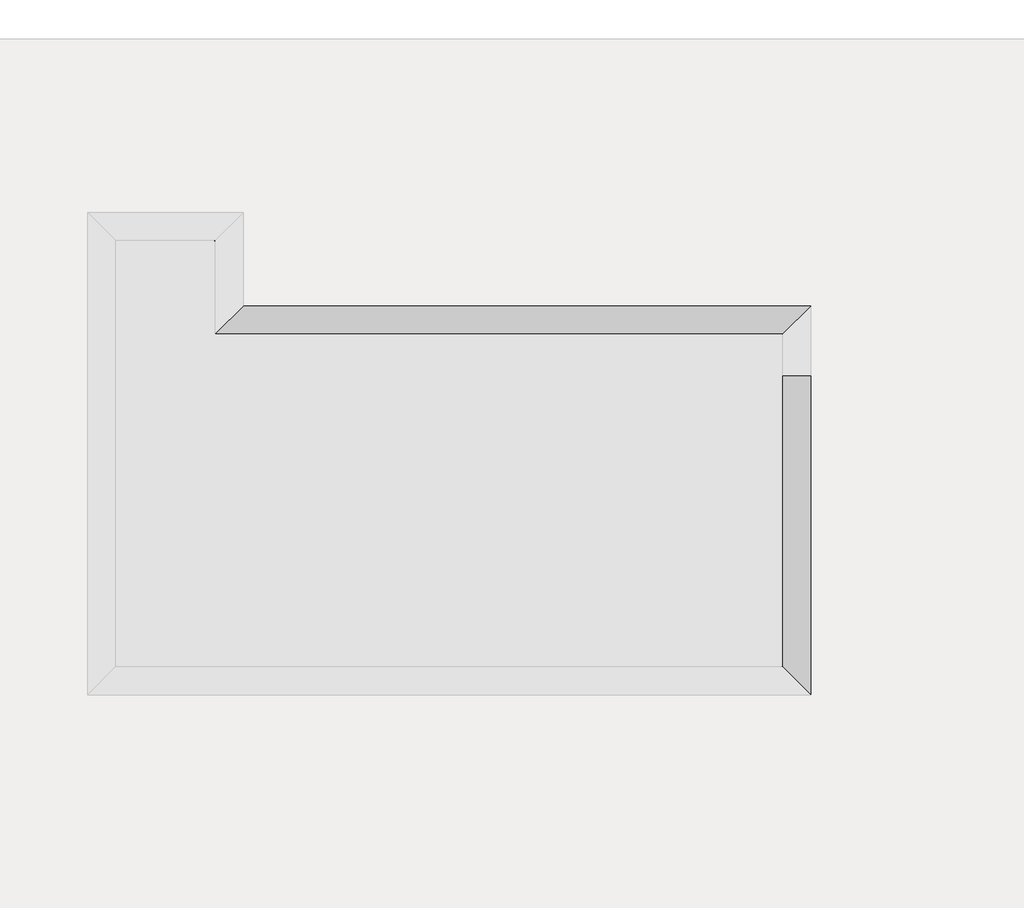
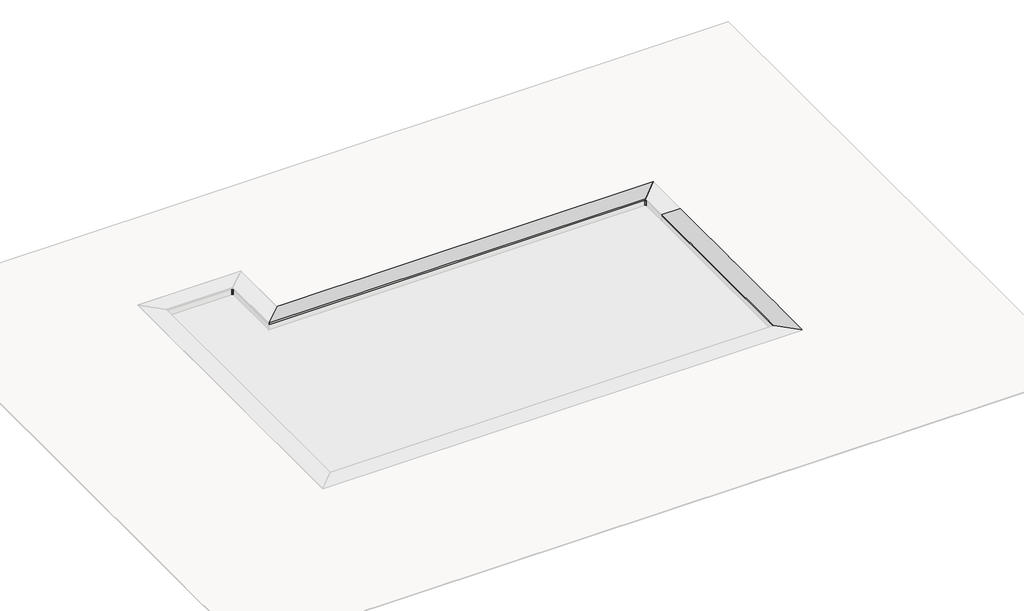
# One storey, part 7 of 8: 14 proxies.
"""IFC4 building model written with IfcOpenShell, lengths in millimetres."""

from ifc_helpers import new_model, si_unit, frame, origin, place, context, project, spatial, polyline, circle_curve, faceted_brep, transform, mapped, element, save
from ifc_brep_helpers import plane_surface, cylinder_surface, revolved_surface, advanced_brep
from components import generic_models_b0f7cce5, generic_models_b073b66c, generic_models_a90d31dc, generic_models_c740a98f, generic_models_2f643e7a, generic_models_adeb31d8, generic_models_0ded9d30

model = new_model("IFC4")

# Units and contexts
model_context = context("Model", 3, world=origin())
ifc_project = project(units=[si_unit("LENGTHUNIT", "METRE", prefix="MILLI")], contexts=[model_context])

# Site, building, storey
site = spatial("IfcSite", under=ifc_project)
building = spatial("IfcBuilding", under=site)
storey = spatial("IfcBuildingStorey", under=building, Name="EXAGRES_Serie YOHO_Piscinas_ejemplo", Elevation=0.0)

# Proxies
placement = place(None, origin())
element("IfcBuildingElementProxy", 1, Name="Wall Sweeps", at=placement, inside=storey, context=model_context, shape_type="Brep", body=[
    faceted_brep([(13093.1504813, -22393.1586753, 0.0), (13080.1504813, -22406.1586753, 0.0), (13080.1504813, -22406.1586753, 33.0), (13410.1504813, -22076.1586753, 33.0), (13410.1504813, -22076.1586753, 21.0), (13404.1504813, -22082.1586753, 21.0), (13404.1504813, -22082.1586753, 22.0), (13400.1504813, -22086.1586753, 22.0), (13400.1504813, -22086.1586753, 21.0), (13394.1504813, -22092.1586753, 21.0), (13394.1504813, -22092.1586753, 22.0), (13390.1504813, -22096.1586753, 22.0), (13390.1504813, -22096.1586753, 21.0), (13384.1504813, -22102.1586753, 21.0), (13384.1504813, -22102.1586753, 22.0), (13380.1504813, -22106.1586753, 22.0), (13380.1504813, -22106.1586753, 21.0), (13374.1504813, -22112.1586753, 21.0), (13374.1504813, -22112.1586753, 22.0), (13370.1504813, -22116.1586753, 22.0), (13370.1504813, -22116.1586753, 21.0), (13364.1504813, -22122.1586753, 21.0), (13364.1504813, -22122.1586753, 22.0), (13360.1504813, -22126.1586753, 22.0), (13360.1504813, -22126.1586753, 21.0), (13354.1504813, -22132.1586753, 21.0), (13354.1504813, -22132.1586753, 22.0), (13350.1504813, -22136.1586753, 22.0), (13350.1504813, -22136.1586753, 21.0), (13344.1504813, -22142.1586753, 21.0), (13344.1504813, -22142.1586753, 22.0), (13340.1504813, -22146.1586753, 22.0), (13340.1504813, -22146.1586753, 21.0), (13334.1504813, -22152.1586753, 21.0), (13334.1504813, -22152.1586753, 22.0), (13330.1504813, -22156.1586753, 22.0), (13330.1504813, -22156.1586753, 21.0), (13324.1504813, -22162.1586753, 21.0), (13324.1504813, -22162.1586753, 22.0), (13320.1504813, -22166.1586753, 22.0), (13320.1504813, -22166.1586753, 21.0), (13314.1504813, -22172.1586753, 21.0), (13314.1504813, -22172.1586753, 22.0), (13310.1504813, -22176.1586753, 22.0), (13310.1504813, -22176.1586753, 21.0), (13304.1504813, -22182.1586753, 21.0), (13304.1504813, -22182.1586753, 22.0), (13300.1504813, -22186.1586753, 22.0), (13300.1504813, -22186.1586753, 21.0), (13294.1504813, -22192.1586753, 21.0), (13294.1504813, -22192.1586753, 22.0), (13290.1504813, -22196.1586753, 22.0), (13290.1504813, -22196.1586753, 21.0), (13284.1504813, -22202.1586753, 21.0), (13284.1504813, -22202.1586753, 22.0), (13280.1504813, -22206.1586753, 22.0), (13280.1504813, -22206.1586753, 21.0), (13274.1504813, -22212.1586753, 21.0), (13274.1504813, -22212.1586753, 22.0), (13270.1504813, -22216.1586753, 22.0), (13270.1504813, -22216.1586753, 21.0), (13264.1504813, -22222.1586753, 21.0), (13264.1504813, -22222.1586753, 22.0), (13260.1504813, -22226.1586753, 22.0), (13260.1504813, -22226.1586753, 21.0), (13254.1504813, -22232.1586753, 21.0), (13254.1504813, -22232.1586753, 22.0), (13250.1504813, -22236.1586753, 22.0), (13250.1504813, -22236.1586753, 21.0), (13244.1504813, -22242.1586753, 21.0), (13244.1504813, -22242.1586753, 22.0), (13240.1504813, -22246.1586753, 22.0), (13240.1504813, -22246.1586753, 21.0), (13234.1504813, -22252.1586753, 21.0), (13234.1504813, -22252.1586753, 22.0), (13230.1504813, -22256.1586753, 22.0), (13230.1504813, -22256.1586753, 21.0), (13224.1504813, -22262.1586753, 21.0), (13224.1504813, -22262.1586753, 22.0), (13220.1504813, -22266.1586753, 22.0), (13220.1504813, -22266.1586753, 21.0), (13214.1504813, -22272.1586753, 21.0), (13214.1504813, -22272.1586753, 22.0), (13210.1504813, -22276.1586753, 22.0), (13210.1504813, -22276.1586753, 21.0), (13204.1504813, -22282.1586753, 21.0), (13204.1504813, -22282.1586753, 22.0), (13200.1504813, -22286.1586753, 22.0), (13200.1504813, -22286.1586753, 21.0), (13194.1504813, -22292.1586753, 21.0), (13194.1504813, -22292.1586753, 22.0), (13190.1504813, -22296.1586753, 22.0), (13190.1504813, -22296.1586753, 21.0), (13184.1504813, -22302.1586753, 21.0), (13184.1504813, -22302.1586753, 22.0), (13180.1504813, -22306.1586753, 22.0), (13180.1504813, -22306.1586753, 21.0), (13174.1504813, -22312.1586753, 21.0), (13174.1504813, -22312.1586753, 22.0), (13170.1504813, -22316.1586753, 22.0), (13170.1504813, -22316.1586753, 21.0), (13164.1504813, -22322.1586753, 21.0), (13164.1504813, -22322.1586753, 22.0), (13160.1504813, -22326.1586753, 22.0), (13160.1504813, -22326.1586753, 21.0), (13154.1504813, -22332.1586753, 21.0), (13154.1504813, -22332.1586753, 22.0), (13150.1504813, -22336.1586753, 22.0), (13150.1504813, -22336.1586753, 21.0), (13144.1504813, -22342.1586753, 21.0), (13144.1504813, -22342.1586753, 22.0), (13140.1504813, -22346.1586753, 22.0), (13140.1504813, -22346.1586753, 21.0), (13134.1504813, -22352.1586753, 21.0), (13134.1504813, -22352.1586753, 22.0), (13130.1504813, -22356.1586753, 22.0), (13130.1504813, -22356.1586753, 21.0), (13124.1504813, -22362.1586753, 21.0), (13124.1504813, -22362.1586753, 22.0), (13120.1504813, -22366.1586753, 22.0), (13120.1504813, -22366.1586753, 21.0), (13114.1504813, -22372.1586753, 21.0), (13114.1504813, -22372.1586753, 22.0), (13110.1504813, -22376.1586753, 22.0), (13110.1504813, -22376.1586753, 21.0), (13104.1504813, -22382.1586753, 21.0), (13104.1504813, -22382.1586753, 22.0), (13100.1504813, -22386.1586753, 22.0), (13100.1504813, -22386.1586753, 21.0), (13093.1504813, -22393.1586753, 21.0), (13093.1504813, -22393.1586753, 14.0), (13092.1504813, -22394.1586753, 14.0), (13092.1504813, -22394.1586753, 8.0), (13093.1504813, -22393.1586753, 8.0), (19893.1504813, -22393.1586753, 0.0), (19893.1504813, -22393.1586753, 8.0), (19892.1504813, -22394.1586753, 8.0), (19892.1504813, -22394.1586753, 14.0), (19893.1504813, -22393.1586753, 14.0), (19893.1504813, -22393.1586753, 21.0), (19900.1504813, -22386.1586753, 21.0), (19900.1504813, -22386.1586753, 22.0), (19904.1504813, -22382.1586753, 22.0), (19904.1504813, -22382.1586753, 21.0), (19910.1504813, -22376.1586753, 21.0), (19910.1504813, -22376.1586753, 22.0), (19914.1504813, -22372.1586753, 22.0), (19914.1504813, -22372.1586753, 21.0), (19920.1504813, -22366.1586753, 21.0), (19920.1504813, -22366.1586753, 22.0), (19924.1504813, -22362.1586753, 22.0), (19924.1504813, -22362.1586753, 21.0), (19930.1504813, -22356.1586753, 21.0), (19930.1504813, -22356.1586753, 22.0), (19934.1504813, -22352.1586753, 22.0), (19934.1504813, -22352.1586753, 21.0), (19940.1504813, -22346.1586753, 21.0), (19940.1504813, -22346.1586753, 22.0), (19944.1504813, -22342.1586753, 22.0), (19944.1504813, -22342.1586753, 21.0), (19950.1504813, -22336.1586753, 21.0), (19950.1504813, -22336.1586753, 22.0), (19954.1504813, -22332.1586753, 22.0), (19954.1504813, -22332.1586753, 21.0), (19960.1504813, -22326.1586753, 21.0), (19960.1504813, -22326.1586753, 22.0), (19964.1504813, -22322.1586753, 22.0), (19964.1504813, -22322.1586753, 21.0), (19970.1504813, -22316.1586753, 21.0), (19970.1504813, -22316.1586753, 22.0), (19974.1504813, -22312.1586753, 22.0), (19974.1504813, -22312.1586753, 21.0), (19980.1504813, -22306.1586753, 21.0), (19980.1504813, -22306.1586753, 22.0), (19984.1504813, -22302.1586753, 22.0), (19984.1504813, -22302.1586753, 21.0), (19990.1504813, -22296.1586753, 21.0), (19990.1504813, -22296.1586753, 22.0), (19994.1504813, -22292.1586753, 22.0), (19994.1504813, -22292.1586753, 21.0), (20000.1504813, -22286.1586753, 21.0), (20000.1504813, -22286.1586753, 22.0), (20004.1504813, -22282.1586753, 22.0), (20004.1504813, -22282.1586753, 21.0), (20010.1504813, -22276.1586753, 21.0), (20010.1504813, -22276.1586753, 22.0), (20014.1504813, -22272.1586753, 22.0), (20014.1504813, -22272.1586753, 21.0), (20020.1504813, -22266.1586753, 21.0), (20020.1504813, -22266.1586753, 22.0), (20024.1504813, -22262.1586753, 22.0), (20024.1504813, -22262.1586753, 21.0), (20030.1504813, -22256.1586753, 21.0), (20030.1504813, -22256.1586753, 22.0), (20034.1504813, -22252.1586753, 22.0), (20034.1504813, -22252.1586753, 21.0), (20040.1504813, -22246.1586753, 21.0), (20040.1504813, -22246.1586753, 22.0), (20044.1504813, -22242.1586753, 22.0), (20044.1504813, -22242.1586753, 21.0), (20050.1504813, -22236.1586753, 21.0), (20050.1504813, -22236.1586753, 22.0), (20054.1504813, -22232.1586753, 22.0), (20054.1504813, -22232.1586753, 21.0), (20060.1504813, -22226.1586753, 21.0), (20060.1504813, -22226.1586753, 22.0), (20064.1504813, -22222.1586753, 22.0), (20064.1504813, -22222.1586753, 21.0), (20070.1504813, -22216.1586753, 21.0), (20070.1504813, -22216.1586753, 22.0), (20074.1504813, -22212.1586753, 22.0), (20074.1504813, -22212.1586753, 21.0), (20080.1504813, -22206.1586753, 21.0), (20080.1504813, -22206.1586753, 22.0), (20084.1504813, -22202.1586753, 22.0), (20084.1504813, -22202.1586753, 21.0), (20090.1504813, -22196.1586753, 21.0), (20090.1504813, -22196.1586753, 22.0), (20094.1504813, -22192.1586753, 22.0), (20094.1504813, -22192.1586753, 21.0), (20100.1504813, -22186.1586753, 21.0), (20100.1504813, -22186.1586753, 22.0), (20104.1504813, -22182.1586753, 22.0), (20104.1504813, -22182.1586753, 21.0), (20110.1504813, -22176.1586753, 21.0), (20110.1504813, -22176.1586753, 22.0), (20114.1504813, -22172.1586753, 22.0), (20114.1504813, -22172.1586753, 21.0), (20120.1504813, -22166.1586753, 21.0), (20120.1504813, -22166.1586753, 22.0), (20124.1504813, -22162.1586753, 22.0), (20124.1504813, -22162.1586753, 21.0), (20130.1504813, -22156.1586753, 21.0), (20130.1504813, -22156.1586753, 22.0), (20134.1504813, -22152.1586753, 22.0), (20134.1504813, -22152.1586753, 21.0), (20140.1504813, -22146.1586753, 21.0), (20140.1504813, -22146.1586753, 22.0), (20144.1504813, -22142.1586753, 22.0), (20144.1504813, -22142.1586753, 21.0), (20150.1504813, -22136.1586753, 21.0), (20150.1504813, -22136.1586753, 22.0), (20154.1504813, -22132.1586753, 22.0), (20154.1504813, -22132.1586753, 21.0), (20160.1504813, -22126.1586753, 21.0), (20160.1504813, -22126.1586753, 22.0), (20164.1504813, -22122.1586753, 22.0), (20164.1504813, -22122.1586753, 21.0), (20170.1504813, -22116.1586753, 21.0), (20170.1504813, -22116.1586753, 22.0), (20174.1504813, -22112.1586753, 22.0), (20174.1504813, -22112.1586753, 21.0), (20180.1504813, -22106.1586753, 21.0), (20180.1504813, -22106.1586753, 22.0), (20184.1504813, -22102.1586753, 22.0), (20184.1504813, -22102.1586753, 21.0), (20190.1504813, -22096.1586753, 21.0), (20190.1504813, -22096.1586753, 22.0), (20194.1504813, -22092.1586753, 22.0), (20194.1504813, -22092.1586753, 21.0), (20200.1504813, -22086.1586753, 21.0), (20200.1504813, -22086.1586753, 22.0), (20204.1504813, -22082.1586753, 22.0), (20204.1504813, -22082.1586753, 21.0), (20210.1504813, -22076.1586753, 21.0), (20210.1504813, -22076.1586753, 33.0), (19880.1504813, -22406.1586753, 33.0), (19880.1504813, -22406.1586753, 0.0)], [[[0, 1, 2, 3, 4, 5, 6, 7, 8, 9, 10, 11, 12, 13, 14, 15, 16, 17, 18, 19, 20, 21, 22, 23, 24, 25, 26, 27, 28, 29, 30, 31, 32, 33, 34, 35, 36, 37, 38, 39, 40, 41, 42, 43, 44, 45, 46, 47, 48, 49, 50, 51, 52, 53, 54, 55, 56, 57, 58, 59, 60, 61, 62, 63, 64, 65, 66, 67, 68, 69, 70, 71, 72, 73, 74, 75, 76, 77, 78, 79, 80, 81, 82, 83, 84, 85, 86, 87, 88, 89, 90, 91, 92, 93, 94, 95, 96, 97, 98, 99, 100, 101, 102, 103, 104, 105, 106, 107, 108, 109, 110, 111, 112, 113, 114, 115, 116, 117, 118, 119, 120, 121, 122, 123, 124, 125, 126, 127, 128, 129, 130, 131, 132, 133]], [[134, 135, 136, 137, 138, 139, 140, 141, 142, 143, 144, 145, 146, 147, 148, 149, 150, 151, 152, 153, 154, 155, 156, 157, 158, 159, 160, 161, 162, 163, 164, 165, 166, 167, 168, 169, 170, 171, 172, 173, 174, 175, 176, 177, 178, 179, 180, 181, 182, 183, 184, 185, 186, 187, 188, 189, 190, 191, 192, 193, 194, 195, 196, 197, 198, 199, 200, 201, 202, 203, 204, 205, 206, 207, 208, 209, 210, 211, 212, 213, 214, 215, 216, 217, 218, 219, 220, 221, 222, 223, 224, 225, 226, 227, 228, 229, 230, 231, 232, 233, 234, 235, 236, 237, 238, 239, 240, 241, 242, 243, 244, 245, 246, 247, 248, 249, 250, 251, 252, 253, 254, 255, 256, 257, 258, 259, 260, 261, 262, 263, 264, 265, 266, 267]], [[1, 0, 134, 267]], [[2, 1, 267, 266]], [[3, 2, 266, 265]], [[4, 3, 265, 264]], [[5, 4, 264, 263]], [[6, 5, 263, 262]], [[7, 6, 262, 261]], [[8, 7, 261, 260]], [[9, 8, 260, 259]], [[10, 9, 259, 258]], [[11, 10, 258, 257]], [[12, 11, 257, 256]], [[13, 12, 256, 255]], [[14, 13, 255, 254]], [[15, 14, 254, 253]], [[16, 15, 253, 252]], [[17, 16, 252, 251]], [[18, 17, 251, 250]], [[19, 18, 250, 249]], [[20, 19, 249, 248]], [[21, 20, 248, 247]], [[22, 21, 247, 246]], [[23, 22, 246, 245]], [[24, 23, 245, 244]], [[25, 24, 244, 243]], [[26, 25, 243, 242]], [[27, 26, 242, 241]], [[28, 27, 241, 240]], [[29, 28, 240, 239]], [[30, 29, 239, 238]], [[31, 30, 238, 237]], [[32, 31, 237, 236]], [[33, 32, 236, 235]], [[34, 33, 235, 234]], [[35, 34, 234, 233]], [[36, 35, 233, 232]], [[37, 36, 232, 231]], [[38, 37, 231, 230]], [[39, 38, 230, 229]], [[40, 39, 229, 228]], [[41, 40, 228, 227]], [[42, 41, 227, 226]], [[43, 42, 226, 225]], [[44, 43, 225, 224]], [[45, 44, 224, 223]], [[46, 45, 223, 222]], [[47, 46, 222, 221]], [[48, 47, 221, 220]], [[49, 48, 220, 219]], [[50, 49, 219, 218]], [[51, 50, 218, 217]], [[52, 51, 217, 216]], [[53, 52, 216, 215]], [[54, 53, 215, 214]], [[55, 54, 214, 213]], [[56, 55, 213, 212]], [[57, 56, 212, 211]], [[58, 57, 211, 210]], [[59, 58, 210, 209]], [[60, 59, 209, 208]], [[61, 60, 208, 207]], [[62, 61, 207, 206]], [[63, 62, 206, 205]], [[64, 63, 205, 204]], [[65, 64, 204, 203]], [[66, 65, 203, 202]], [[67, 66, 202, 201]], [[68, 67, 201, 200]], [[69, 68, 200, 199]], [[70, 69, 199, 198]], [[71, 70, 198, 197]], [[72, 71, 197, 196]], [[73, 72, 196, 195]], [[74, 73, 195, 194]], [[75, 74, 194, 193]], [[76, 75, 193, 192]], [[77, 76, 192, 191]], [[78, 77, 191, 190]], [[79, 78, 190, 189]], [[80, 79, 189, 188]], [[81, 80, 188, 187]], [[82, 81, 187, 186]], [[83, 82, 186, 185]], [[84, 83, 185, 184]], [[85, 84, 184, 183]], [[86, 85, 183, 182]], [[87, 86, 182, 181]], [[88, 87, 181, 180]], [[89, 88, 180, 179]], [[90, 89, 179, 178]], [[91, 90, 178, 177]], [[92, 91, 177, 176]], [[93, 92, 176, 175]], [[94, 93, 175, 174]], [[95, 94, 174, 173]], [[96, 95, 173, 172]], [[97, 96, 172, 171]], [[98, 97, 171, 170]], [[99, 98, 170, 169]], [[100, 99, 169, 168]], [[101, 100, 168, 167]], [[102, 101, 167, 166]], [[103, 102, 166, 165]], [[104, 103, 165, 164]], [[105, 104, 164, 163]], [[106, 105, 163, 162]], [[107, 106, 162, 161]], [[108, 107, 161, 160]], [[109, 108, 160, 159]], [[110, 109, 159, 158]], [[111, 110, 158, 157]], [[112, 111, 157, 156]], [[113, 112, 156, 155]], [[114, 113, 155, 154]], [[115, 114, 154, 153]], [[116, 115, 153, 152]], [[117, 116, 152, 151]], [[118, 117, 151, 150]], [[119, 118, 150, 149]], [[120, 119, 149, 148]], [[121, 120, 148, 147]], [[122, 121, 147, 146]], [[123, 122, 146, 145]], [[124, 123, 145, 144]], [[125, 124, 144, 143]], [[126, 125, 143, 142]], [[127, 126, 142, 141]], [[128, 127, 141, 140]], [[129, 128, 140, 139]], [[130, 129, 139, 138]], [[131, 130, 138, 137]], [[132, 131, 137, 136]], [[133, 132, 136, 135]], [[0, 133, 135, 134]]]),
])
element("IfcBuildingElementProxy", 2, Name="Wall Sweeps", at=placement, inside=storey, context=model_context, shape_type="Brep", body=[
    faceted_brep([(13400.1504813, -22086.1586753, -181.26), (13305.1504813, -22181.1586753, -181.26), (13095.1504813, -22391.1586753, -181.26), (13095.1504813, -22391.1586753, 0.0), (13095.1504813, -22391.1586753, 18.74), (13400.1504813, -22086.1586753, 18.74), (20200.1504813, -22086.1586753, -181.26), (20200.1504813, -22086.1586753, 18.74), (19895.1504813, -22391.1586753, 18.74), (19895.1504813, -22391.1586753, 0.0), (19895.1504813, -22391.1586753, -181.26), (20105.1504813, -22181.1586753, -181.26)], [[[0, 1, 2, 3, 4, 5]], [[6, 7, 8, 9, 10, 11]], [[4, 3, 2, 10, 9, 8]], [[2, 1, 0, 6, 11, 10]], [[5, 4, 8, 7]], [[0, 5, 7, 6]]]),
])
element("IfcBuildingElementProxy", 3, Name="Wall Sweeps", at=placement, inside=storey, context=model_context, shape_type="AdvancedBrep", body=[
    advanced_brep(
    [(13095.1504813, -22391.1586753, -181.26), (13305.1504813, -22181.1586753, -181.26), (13400.1504813, -22086.1586753, -181.26), (13400.1504813, -22086.1586753, 18.74), (13095.1504813, -22391.1586753, 18.74), (13095.1504813, -22391.1586753, 0.0), (13400.1504813, -20966.1586753, -181.26), (13305.1504813, -21061.1586753, -181.26), (13095.1504813, -21271.1586753, -181.26), (13095.1504813, -21271.1586753, -109.0), (13105.1504813, -21261.1586753, -109.0), (13105.1504813, -21261.1586753, -100.0), (13095.1504813, -21271.1586753, -100.0), (13095.1504813, -21271.1586753, 0.0), (13095.1504813, -21271.1586753, 18.74), (13400.1504813, -20966.1586753, 18.74), (13095.1504813, -21502.2586753, -100.0), (13095.1504813, -21526.1586753, -123.9), (13095.1504813, -21519.7586753, -123.9), (13095.1504813, -21502.2586753, -106.4), (13095.1504813, -21502.2586753, -109.0), (13105.1504813, -21502.2586753, -109.0), (13105.1504813, -21502.2586753, -100.0), (13105.1504813, -21502.2586753, -106.4), (13105.1504813, -21519.7586753, -123.9), (13105.1504813, -21526.1586753, -123.9)],
    [
        (0, 1),
        (1, 2),
        (2, 3),
        (3, 4),
        (4, 5),
        (5, 0),
        (6, 7),
        (7, 8),
        (8, 9),
        (9, 10),
        (10, 11),
        (11, 12),
        (12, 13),
        (13, 14),
        (14, 15),
        (15, 6),
        (0, 8),
        (6, 2),
        (4, 14),
        (12, 16),
        (16, 17, circle_curve(frame((13095.1504813, -21502.2586753, -123.9), z_axis=(1.0, 0.0, 0.0), x_axis=(0.0, 1.0, 0.0)), 23.9)),
        (17, 18),
        (18, 19, circle_curve(frame((13095.1504813, -21502.2586753, -123.9), z_axis=(-1.0, 0.0, 0.0), x_axis=(0.0, 1.0, 0.0)), 17.5)),
        (19, 20),
        (20, 9),
        (15, 3),
        (20, 21),
        (21, 10),
        (11, 22),
        (22, 16),
        (21, 23),
        (23, 24, circle_curve(frame((13105.1504813, -21502.2586753, -123.9), z_axis=(1.0, 0.0, 0.0), x_axis=(0.0, 1.0, 0.0)), 17.5)),
        (24, 25),
        (25, 22, circle_curve(frame((13105.1504813, -21502.2586753, -123.9), z_axis=(-1.0, 0.0, 0.0), x_axis=(0.0, 1.0, 0.0)), 23.9)),
        (19, 23),
        (25, 17),
        (18, 24),
    ],
    [
        plane_surface(frame((13080.1504813, -22406.1586753, 304.8), z_axis=(0.7071067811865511, -0.707106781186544, 0.0), x_axis=(0.707106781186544, 0.7071067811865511, 0.0))),
        plane_surface(frame((13080.1504813, -21286.1586753, -304.8), z_axis=(-0.7071067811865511, 0.707106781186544, 0.0), x_axis=(-0.707106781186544, -0.7071067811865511, 0.0))),
        plane_surface(frame((13095.1504813, -22391.1586753, -181.26), z_axis=(0.0, 0.0, -1.0), x_axis=(0.0, 1.0, 0.0))),
        plane_surface(frame((13095.1504813, -22391.1586753, 18.74), z_axis=(-1.0, 0.0, 0.0), x_axis=(0.0, 1.0, 0.0))),
        plane_surface(frame((13400.1504813, -22086.1586753, -181.26), z_axis=(1.0, 0.0, 0.0), x_axis=(0.0, 1.0, 0.0))),
        plane_surface(frame((13400.1504813, -22086.1586753, 18.74), z_axis=(0.0, 0.0, 1.0), x_axis=(0.0, 1.0, 0.0))),
        plane_surface(frame((13105.1504813, -2799.4052265, -109.0), z_axis=(0.0, 0.0, 1.0), x_axis=(0.0, -1.0, 0.0))),
        plane_surface(frame((13105.1504813, -2799.4052265, -100.0), z_axis=(0.0, 0.0, -1.0), x_axis=(0.0, 1.0, 0.0))),
        plane_surface(frame((13105.1504813, -21226.1586753, -109.0), z_axis=(-1.0, 0.0, 0.0), x_axis=(0.0, 0.0, 1.0))),
        plane_surface(frame((11855.1504813, -21502.2586753, -100.0), z_axis=(0.0, 1.0, 0.0), x_axis=(1.0, 0.0, 0.0))),
        revolved_surface(polyline([(13095.1504813, -21478.358675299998, -123.9), (13105.1504813, -21478.358675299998, -123.9)]), (11855.1504813, -21502.2586753, -123.9), (-1.0, 0.0, 0.0)),
        cylinder_surface(frame((11855.1504813, -21502.2586753, -123.9), z_axis=(1.0, 0.0, 0.0), x_axis=(0.0, 1.0, 0.0)), 17.5),
        plane_surface(frame((11855.1504813, -21519.7586753, -123.9), z_axis=(0.0, 0.0, 1.0), x_axis=(1.0, 0.0, 0.0))),
    ],
    [
        (0, [[1, 2, 3, 4, 5, 6]]),
        (1, [[7, 8, 9, 10, 11, 12, 13, 14, 15, 16]]),
        (2, [[-2, -1, 17, -8, -7, 18]]),
        (3, [[-6, -5, 19, -14, -13, 20, 21, 22, 23, 24, 25, -9, -17]]),
        (4, [[-3, -18, -16, 26]]),
        (5, [[-4, -26, -15, -19]]),
        (6, [[27, 28, -10, -25]]),
        (7, [[29, 30, -20, -12]]),
        (8, [[-28, 31, 32, 33, 34, -29, -11]]),
        (9, [[-27, -24, 35, -31]]),
        (10, [[-34, 36, -21, -30]]),
        (11, [[-32, -35, -23, 37]]),
        (12, [[-33, -37, -22, -36]]),
    ],
),
])
element("IfcBuildingElementProxy", 4, Name="Wall Sweeps", at=placement, inside=storey, context=model_context, shape_type="Brep", body=[
    faceted_brep([(19893.1504813, -22913.6586753, 0.0), (19880.1504813, -22913.6586753, 0.0), (19880.1504813, -22913.6586753, 33.0), (20210.1504813, -22913.6586753, 33.0), (20210.1504813, -22913.6586753, 21.0), (20204.1504813, -22913.6586753, 21.0), (20204.1504813, -22913.6586753, 22.0), (20200.1504813, -22913.6586753, 22.0), (20200.1504813, -22913.6586753, 21.0), (20194.1504813, -22913.6586753, 21.0), (20194.1504813, -22913.6586753, 22.0), (20190.1504813, -22913.6586753, 22.0), (20190.1504813, -22913.6586753, 21.0), (20184.1504813, -22913.6586753, 21.0), (20184.1504813, -22913.6586753, 22.0), (20180.1504813, -22913.6586753, 22.0), (20180.1504813, -22913.6586753, 21.0), (20174.1504813, -22913.6586753, 21.0), (20174.1504813, -22913.6586753, 22.0), (20170.1504813, -22913.6586753, 22.0), (20170.1504813, -22913.6586753, 21.0), (20164.1504813, -22913.6586753, 21.0), (20164.1504813, -22913.6586753, 22.0), (20160.1504813, -22913.6586753, 22.0), (20160.1504813, -22913.6586753, 21.0), (20154.1504813, -22913.6586753, 21.0), (20154.1504813, -22913.6586753, 22.0), (20150.1504813, -22913.6586753, 22.0), (20150.1504813, -22913.6586753, 21.0), (20144.1504813, -22913.6586753, 21.0), (20144.1504813, -22913.6586753, 22.0), (20140.1504813, -22913.6586753, 22.0), (20140.1504813, -22913.6586753, 21.0), (20134.1504813, -22913.6586753, 21.0), (20134.1504813, -22913.6586753, 22.0), (20130.1504813, -22913.6586753, 22.0), (20130.1504813, -22913.6586753, 21.0), (20124.1504813, -22913.6586753, 21.0), (20124.1504813, -22913.6586753, 22.0), (20120.1504813, -22913.6586753, 22.0), (20120.1504813, -22913.6586753, 21.0), (20114.1504813, -22913.6586753, 21.0), (20114.1504813, -22913.6586753, 22.0), (20110.1504813, -22913.6586753, 22.0), (20110.1504813, -22913.6586753, 21.0), (20104.1504813, -22913.6586753, 21.0), (20104.1504813, -22913.6586753, 22.0), (20100.1504813, -22913.6586753, 22.0), (20100.1504813, -22913.6586753, 21.0), (20094.1504813, -22913.6586753, 21.0), (20094.1504813, -22913.6586753, 22.0), (20090.1504813, -22913.6586753, 22.0), (20090.1504813, -22913.6586753, 21.0), (20084.1504813, -22913.6586753, 21.0), (20084.1504813, -22913.6586753, 22.0), (20080.1504813, -22913.6586753, 22.0), (20080.1504813, -22913.6586753, 21.0), (20074.1504813, -22913.6586753, 21.0), (20074.1504813, -22913.6586753, 22.0), (20070.1504813, -22913.6586753, 22.0), (20070.1504813, -22913.6586753, 21.0), (20064.1504813, -22913.6586753, 21.0), (20064.1504813, -22913.6586753, 22.0), (20060.1504813, -22913.6586753, 22.0), (20060.1504813, -22913.6586753, 21.0), (20054.1504813, -22913.6586753, 21.0), (20054.1504813, -22913.6586753, 22.0), (20050.1504813, -22913.6586753, 22.0), (20050.1504813, -22913.6586753, 21.0), (20044.1504813, -22913.6586753, 21.0), (20044.1504813, -22913.6586753, 22.0), (20040.1504813, -22913.6586753, 22.0), (20040.1504813, -22913.6586753, 21.0), (20034.1504813, -22913.6586753, 21.0), (20034.1504813, -22913.6586753, 22.0), (20030.1504813, -22913.6586753, 22.0), (20030.1504813, -22913.6586753, 21.0), (20024.1504813, -22913.6586753, 21.0), (20024.1504813, -22913.6586753, 22.0), (20020.1504813, -22913.6586753, 22.0), (20020.1504813, -22913.6586753, 21.0), (20014.1504813, -22913.6586753, 21.0), (20014.1504813, -22913.6586753, 22.0), (20010.1504813, -22913.6586753, 22.0), (20010.1504813, -22913.6586753, 21.0), (20004.1504813, -22913.6586753, 21.0), (20004.1504813, -22913.6586753, 22.0), (20000.1504813, -22913.6586753, 22.0), (20000.1504813, -22913.6586753, 21.0), (19994.1504813, -22913.6586753, 21.0), (19994.1504813, -22913.6586753, 22.0), (19990.1504813, -22913.6586753, 22.0), (19990.1504813, -22913.6586753, 21.0), (19984.1504813, -22913.6586753, 21.0), (19984.1504813, -22913.6586753, 22.0), (19980.1504813, -22913.6586753, 22.0), (19980.1504813, -22913.6586753, 21.0), (19974.1504813, -22913.6586753, 21.0), (19974.1504813, -22913.6586753, 22.0), (19970.1504813, -22913.6586753, 22.0), (19970.1504813, -22913.6586753, 21.0), (19964.1504813, -22913.6586753, 21.0), (19964.1504813, -22913.6586753, 22.0), (19960.1504813, -22913.6586753, 22.0), (19960.1504813, -22913.6586753, 21.0), (19954.1504813, -22913.6586753, 21.0), (19954.1504813, -22913.6586753, 22.0), (19950.1504813, -22913.6586753, 22.0), (19950.1504813, -22913.6586753, 21.0), (19944.1504813, -22913.6586753, 21.0), (19944.1504813, -22913.6586753, 22.0), (19940.1504813, -22913.6586753, 22.0), (19940.1504813, -22913.6586753, 21.0), (19934.1504813, -22913.6586753, 21.0), (19934.1504813, -22913.6586753, 22.0), (19930.1504813, -22913.6586753, 22.0), (19930.1504813, -22913.6586753, 21.0), (19924.1504813, -22913.6586753, 21.0), (19924.1504813, -22913.6586753, 22.0), (19920.1504813, -22913.6586753, 22.0), (19920.1504813, -22913.6586753, 21.0), (19914.1504813, -22913.6586753, 21.0), (19914.1504813, -22913.6586753, 22.0), (19910.1504813, -22913.6586753, 22.0), (19910.1504813, -22913.6586753, 21.0), (19904.1504813, -22913.6586753, 21.0), (19904.1504813, -22913.6586753, 22.0), (19900.1504813, -22913.6586753, 22.0), (19900.1504813, -22913.6586753, 21.0), (19893.1504813, -22913.6586753, 21.0), (19893.1504813, -22913.6586753, 14.0), (19892.1504813, -22913.6586753, 14.0), (19892.1504813, -22913.6586753, 8.0), (19893.1504813, -22913.6586753, 8.0), (19893.1504813, -26419.1586753, 0.0), (19893.1504813, -26419.1586753, 8.0), (19892.1504813, -26418.1586753, 8.0), (19892.1504813, -26418.1586753, 14.0), (19893.1504813, -26419.1586753, 14.0), (19893.1504813, -26419.1586753, 21.0), (19900.1504813, -26426.1586753, 21.0), (19900.1504813, -26426.1586753, 22.0), (19904.1504813, -26430.1586753, 22.0), (19904.1504813, -26430.1586753, 21.0), (19910.1504813, -26436.1586753, 21.0), (19910.1504813, -26436.1586753, 22.0), (19914.1504813, -26440.1586753, 22.0), (19914.1504813, -26440.1586753, 21.0), (19920.1504813, -26446.1586753, 21.0), (19920.1504813, -26446.1586753, 22.0), (19924.1504813, -26450.1586753, 22.0), (19924.1504813, -26450.1586753, 21.0), (19930.1504813, -26456.1586753, 21.0), (19930.1504813, -26456.1586753, 22.0), (19934.1504813, -26460.1586753, 22.0), (19934.1504813, -26460.1586753, 21.0), (19940.1504813, -26466.1586753, 21.0), (19940.1504813, -26466.1586753, 22.0), (19944.1504813, -26470.1586753, 22.0), (19944.1504813, -26470.1586753, 21.0), (19950.1504813, -26476.1586753, 21.0), (19950.1504813, -26476.1586753, 22.0), (19954.1504813, -26480.1586753, 22.0), (19954.1504813, -26480.1586753, 21.0), (19960.1504813, -26486.1586753, 21.0), (19960.1504813, -26486.1586753, 22.0), (19964.1504813, -26490.1586753, 22.0), (19964.1504813, -26490.1586753, 21.0), (19970.1504813, -26496.1586753, 21.0), (19970.1504813, -26496.1586753, 22.0), (19974.1504813, -26500.1586753, 22.0), (19974.1504813, -26500.1586753, 21.0), (19980.1504813, -26506.1586753, 21.0), (19980.1504813, -26506.1586753, 22.0), (19984.1504813, -26510.1586753, 22.0), (19984.1504813, -26510.1586753, 21.0), (19990.1504813, -26516.1586753, 21.0), (19990.1504813, -26516.1586753, 22.0), (19994.1504813, -26520.1586753, 22.0), (19994.1504813, -26520.1586753, 21.0), (20000.1504813, -26526.1586753, 21.0), (20000.1504813, -26526.1586753, 22.0), (20004.1504813, -26530.1586753, 22.0), (20004.1504813, -26530.1586753, 21.0), (20010.1504813, -26536.1586753, 21.0), (20010.1504813, -26536.1586753, 22.0), (20014.1504813, -26540.1586753, 22.0), (20014.1504813, -26540.1586753, 21.0), (20020.1504813, -26546.1586753, 21.0), (20020.1504813, -26546.1586753, 22.0), (20024.1504813, -26550.1586753, 22.0), (20024.1504813, -26550.1586753, 21.0), (20030.1504813, -26556.1586753, 21.0), (20030.1504813, -26556.1586753, 22.0), (20034.1504813, -26560.1586753, 22.0), (20034.1504813, -26560.1586753, 21.0), (20040.1504813, -26566.1586753, 21.0), (20040.1504813, -26566.1586753, 22.0), (20044.1504813, -26570.1586753, 22.0), (20044.1504813, -26570.1586753, 21.0), (20050.1504813, -26576.1586753, 21.0), (20050.1504813, -26576.1586753, 22.0), (20054.1504813, -26580.1586753, 22.0), (20054.1504813, -26580.1586753, 21.0), (20060.1504813, -26586.1586753, 21.0), (20060.1504813, -26586.1586753, 22.0), (20064.1504813, -26590.1586753, 22.0), (20064.1504813, -26590.1586753, 21.0), (20070.1504813, -26596.1586753, 21.0), (20070.1504813, -26596.1586753, 22.0), (20074.1504813, -26600.1586753, 22.0), (20074.1504813, -26600.1586753, 21.0), (20080.1504813, -26606.1586753, 21.0), (20080.1504813, -26606.1586753, 22.0), (20084.1504813, -26610.1586753, 22.0), (20084.1504813, -26610.1586753, 21.0), (20090.1504813, -26616.1586753, 21.0), (20090.1504813, -26616.1586753, 22.0), (20094.1504813, -26620.1586753, 22.0), (20094.1504813, -26620.1586753, 21.0), (20100.1504813, -26626.1586753, 21.0), (20100.1504813, -26626.1586753, 22.0), (20104.1504813, -26630.1586753, 22.0), (20104.1504813, -26630.1586753, 21.0), (20110.1504813, -26636.1586753, 21.0), (20110.1504813, -26636.1586753, 22.0), (20114.1504813, -26640.1586753, 22.0), (20114.1504813, -26640.1586753, 21.0), (20120.1504813, -26646.1586753, 21.0), (20120.1504813, -26646.1586753, 22.0), (20124.1504813, -26650.1586753, 22.0), (20124.1504813, -26650.1586753, 21.0), (20130.1504813, -26656.1586753, 21.0), (20130.1504813, -26656.1586753, 22.0), (20134.1504813, -26660.1586753, 22.0), (20134.1504813, -26660.1586753, 21.0), (20140.1504813, -26666.1586753, 21.0), (20140.1504813, -26666.1586753, 22.0), (20144.1504813, -26670.1586753, 22.0), (20144.1504813, -26670.1586753, 21.0), (20150.1504813, -26676.1586753, 21.0), (20150.1504813, -26676.1586753, 22.0), (20154.1504813, -26680.1586753, 22.0), (20154.1504813, -26680.1586753, 21.0), (20160.1504813, -26686.1586753, 21.0), (20160.1504813, -26686.1586753, 22.0), (20164.1504813, -26690.1586753, 22.0), (20164.1504813, -26690.1586753, 21.0), (20170.1504813, -26696.1586753, 21.0), (20170.1504813, -26696.1586753, 22.0), (20174.1504813, -26700.1586753, 22.0), (20174.1504813, -26700.1586753, 21.0), (20180.1504813, -26706.1586753, 21.0), (20180.1504813, -26706.1586753, 22.0), (20184.1504813, -26710.1586753, 22.0), (20184.1504813, -26710.1586753, 21.0), (20190.1504813, -26716.1586753, 21.0), (20190.1504813, -26716.1586753, 22.0), (20194.1504813, -26720.1586753, 22.0), (20194.1504813, -26720.1586753, 21.0), (20200.1504813, -26726.1586753, 21.0), (20200.1504813, -26726.1586753, 22.0), (20204.1504813, -26730.1586753, 22.0), (20204.1504813, -26730.1586753, 21.0), (20210.1504813, -26736.1586753, 21.0), (20210.1504813, -26736.1586753, 33.0), (19880.1504813, -26406.1586753, 33.0), (19880.1504813, -26406.1586753, 0.0)], [[[0, 1, 2, 3, 4, 5, 6, 7, 8, 9, 10, 11, 12, 13, 14, 15, 16, 17, 18, 19, 20, 21, 22, 23, 24, 25, 26, 27, 28, 29, 30, 31, 32, 33, 34, 35, 36, 37, 38, 39, 40, 41, 42, 43, 44, 45, 46, 47, 48, 49, 50, 51, 52, 53, 54, 55, 56, 57, 58, 59, 60, 61, 62, 63, 64, 65, 66, 67, 68, 69, 70, 71, 72, 73, 74, 75, 76, 77, 78, 79, 80, 81, 82, 83, 84, 85, 86, 87, 88, 89, 90, 91, 92, 93, 94, 95, 96, 97, 98, 99, 100, 101, 102, 103, 104, 105, 106, 107, 108, 109, 110, 111, 112, 113, 114, 115, 116, 117, 118, 119, 120, 121, 122, 123, 124, 125, 126, 127, 128, 129, 130, 131, 132, 133]], [[134, 135, 136, 137, 138, 139, 140, 141, 142, 143, 144, 145, 146, 147, 148, 149, 150, 151, 152, 153, 154, 155, 156, 157, 158, 159, 160, 161, 162, 163, 164, 165, 166, 167, 168, 169, 170, 171, 172, 173, 174, 175, 176, 177, 178, 179, 180, 181, 182, 183, 184, 185, 186, 187, 188, 189, 190, 191, 192, 193, 194, 195, 196, 197, 198, 199, 200, 201, 202, 203, 204, 205, 206, 207, 208, 209, 210, 211, 212, 213, 214, 215, 216, 217, 218, 219, 220, 221, 222, 223, 224, 225, 226, 227, 228, 229, 230, 231, 232, 233, 234, 235, 236, 237, 238, 239, 240, 241, 242, 243, 244, 245, 246, 247, 248, 249, 250, 251, 252, 253, 254, 255, 256, 257, 258, 259, 260, 261, 262, 263, 264, 265, 266, 267]], [[1, 0, 134, 267]], [[2, 1, 267, 266]], [[3, 2, 266, 265]], [[4, 3, 265, 264]], [[5, 4, 264, 263]], [[6, 5, 263, 262]], [[7, 6, 262, 261]], [[8, 7, 261, 260]], [[9, 8, 260, 259]], [[10, 9, 259, 258]], [[11, 10, 258, 257]], [[12, 11, 257, 256]], [[13, 12, 256, 255]], [[14, 13, 255, 254]], [[15, 14, 254, 253]], [[16, 15, 253, 252]], [[17, 16, 252, 251]], [[18, 17, 251, 250]], [[19, 18, 250, 249]], [[20, 19, 249, 248]], [[21, 20, 248, 247]], [[22, 21, 247, 246]], [[23, 22, 246, 245]], [[24, 23, 245, 244]], [[25, 24, 244, 243]], [[26, 25, 243, 242]], [[27, 26, 242, 241]], [[28, 27, 241, 240]], [[29, 28, 240, 239]], [[30, 29, 239, 238]], [[31, 30, 238, 237]], [[32, 31, 237, 236]], [[33, 32, 236, 235]], [[34, 33, 235, 234]], [[35, 34, 234, 233]], [[36, 35, 233, 232]], [[37, 36, 232, 231]], [[38, 37, 231, 230]], [[39, 38, 230, 229]], [[40, 39, 229, 228]], [[41, 40, 228, 227]], [[42, 41, 227, 226]], [[43, 42, 226, 225]], [[44, 43, 225, 224]], [[45, 44, 224, 223]], [[46, 45, 223, 222]], [[47, 46, 222, 221]], [[48, 47, 221, 220]], [[49, 48, 220, 219]], [[50, 49, 219, 218]], [[51, 50, 218, 217]], [[52, 51, 217, 216]], [[53, 52, 216, 215]], [[54, 53, 215, 214]], [[55, 54, 214, 213]], [[56, 55, 213, 212]], [[57, 56, 212, 211]], [[58, 57, 211, 210]], [[59, 58, 210, 209]], [[60, 59, 209, 208]], [[61, 60, 208, 207]], [[62, 61, 207, 206]], [[63, 62, 206, 205]], [[64, 63, 205, 204]], [[65, 64, 204, 203]], [[66, 65, 203, 202]], [[67, 66, 202, 201]], [[68, 67, 201, 200]], [[69, 68, 200, 199]], [[70, 69, 199, 198]], [[71, 70, 198, 197]], [[72, 71, 197, 196]], [[73, 72, 196, 195]], [[74, 73, 195, 194]], [[75, 74, 194, 193]], [[76, 75, 193, 192]], [[77, 76, 192, 191]], [[78, 77, 191, 190]], [[79, 78, 190, 189]], [[80, 79, 189, 188]], [[81, 80, 188, 187]], [[82, 81, 187, 186]], [[83, 82, 186, 185]], [[84, 83, 185, 184]], [[85, 84, 184, 183]], [[86, 85, 183, 182]], [[87, 86, 182, 181]], [[88, 87, 181, 180]], [[89, 88, 180, 179]], [[90, 89, 179, 178]], [[91, 90, 178, 177]], [[92, 91, 177, 176]], [[93, 92, 176, 175]], [[94, 93, 175, 174]], [[95, 94, 174, 173]], [[96, 95, 173, 172]], [[97, 96, 172, 171]], [[98, 97, 171, 170]], [[99, 98, 170, 169]], [[100, 99, 169, 168]], [[101, 100, 168, 167]], [[102, 101, 167, 166]], [[103, 102, 166, 165]], [[104, 103, 165, 164]], [[105, 104, 164, 163]], [[106, 105, 163, 162]], [[107, 106, 162, 161]], [[108, 107, 161, 160]], [[109, 108, 160, 159]], [[110, 109, 159, 158]], [[111, 110, 158, 157]], [[112, 111, 157, 156]], [[113, 112, 156, 155]], [[114, 113, 155, 154]], [[115, 114, 154, 153]], [[116, 115, 153, 152]], [[117, 116, 152, 151]], [[118, 117, 151, 150]], [[119, 118, 150, 149]], [[120, 119, 149, 148]], [[121, 120, 148, 147]], [[122, 121, 147, 146]], [[123, 122, 146, 145]], [[124, 123, 145, 144]], [[125, 124, 144, 143]], [[126, 125, 143, 142]], [[127, 126, 142, 141]], [[128, 127, 141, 140]], [[129, 128, 140, 139]], [[130, 129, 139, 138]], [[131, 130, 138, 137]], [[132, 131, 137, 136]], [[133, 132, 136, 135]], [[0, 133, 135, 134]]]),
])
element("IfcBuildingElementProxy", 5, Name="Wall Sweeps", at=placement, inside=storey, context=model_context, shape_type="Brep", body=[
    faceted_brep([(20200.1504813, -22913.6586753, -181.26), (20105.1504813, -22913.6586753, -181.26), (19895.1504813, -22913.6586753, -181.26), (19895.1504813, -22913.6586753, 0.0), (19895.1504813, -22913.6586753, 18.74), (20200.1504813, -22913.6586753, 18.74), (20200.1504813, -26726.1586753, -181.26), (20200.1504813, -26726.1586753, 18.74), (19895.1504813, -26421.1586753, 18.74), (19895.1504813, -26421.1586753, -181.26), (19895.1504813, -26406.1586753, -181.26)], [[[0, 1, 2, 3, 4, 5]], [[6, 7, 8, 9]], [[2, 1, 0, 6, 9, 10]], [[4, 3, 2, 10, 9, 8]], [[5, 4, 8, 7]], [[0, 5, 7, 6]]]),
])
generic_models_shape = generic_models_b0f7cce5(model_context)
element("IfcBuildingElementProxy", 6, Name="EXAGRES - Piscina Uña : Publica_Azul_4x4cm", ObjectType="EXAGRES - Piscina Uña : Publica_Azul_4x4cm", at=placement, inside=storey, context=model_context, shape_type="MappedRepresentation", body=[
    mapped(generic_models_shape, transform((19880.1504813, -26406.1586753, -1500.0), x_axis=(-1.0, 0.0, 0.0), y_axis=(0.0, -1.0, 0.0), z_axis=(0.0, 0.0, 1.0))),
])
element("IfcBuildingElementProxy", 7, Name="EXAGRES - Piscina Uña : Publica_Azul_4x4cm", ObjectType="EXAGRES - Piscina Uña : Publica_Azul_4x4cm", at=placement, inside=storey, context=model_context, shape_type="MappedRepresentation", body=[
    mapped(generic_models_shape, transform((19880.1504813, -22406.1586753, -1500.0), x_axis=(0.0, -1.0, 0.0), y_axis=(1.0, 0.0, 0.0), z_axis=(0.0, 0.0, 1.0))),
])
generic_models_2_shape = generic_models_b073b66c(model_context)
element("IfcBuildingElementProxy", 8, Name="EXAGRES - Piscina Mediacaña : Publica_Azul_24.5x4cm", ObjectType="EXAGRES - Piscina Mediacaña : Publica_Azul_24.5x4cm", at=placement, inside=storey, context=model_context, shape_type="MappedRepresentation", body=[
    mapped(generic_models_2_shape, transform((13080.1504813, -21286.1586753, -100.0), x_axis=(0.0, 0.0, 1.0), y_axis=(0.0, 1.0, 0.0), z_axis=(-1.0, 0.0, 0.0))),
])
generic_models_3_shape = generic_models_a90d31dc(model_context)
element("IfcBuildingElementProxy", 9, Name="EXAGRES - Piscina Mediacaña : Publica_Azul_24.5x4cm", ObjectType="EXAGRES - Piscina Mediacaña : Publica_Azul_24.5x4cm", at=placement, inside=storey, context=model_context, shape_type="MappedRepresentation", body=[
    mapped(generic_models_3_shape, transform((17885.9639817, -26406.1586753, -1501.4533751), x_axis=(-0.9701425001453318, 0.0, 0.24253562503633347), y_axis=(0.0, -1.0, 0.0), z_axis=(0.24253562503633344, 0.0, 0.9701425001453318))),
])
generic_models_4_shape = generic_models_c740a98f(model_context)
element("IfcBuildingElementProxy", 10, Name="EXAGRES - Piscina Mediacaña : Publica_Azul_24.5x4cm", ObjectType="EXAGRES - Piscina Mediacaña : Publica_Azul_24.5x4cm", at=placement, inside=storey, context=model_context, shape_type="MappedRepresentation", body=[
    mapped(generic_models_4_shape, transform((19880.1504813, -22406.1586753, -1500.0), x_axis=(0.0, 0.0, 1.0), y_axis=(0.0, 1.0, 0.0), z_axis=(-1.0, 0.0, 0.0))),
])
element("IfcBuildingElementProxy", 11, Name="EXAGRES - Piscina Mediacaña : Publica_Azul_24.5x4cm", ObjectType="EXAGRES - Piscina Mediacaña : Publica_Azul_24.5x4cm", at=placement, inside=storey, context=model_context, shape_type="MappedRepresentation", body=[
    mapped(generic_models_4_shape, transform((19880.1504813, -26406.1586753, -1500.0), x_axis=(0.0, 0.0, 1.0), y_axis=(1.0, 0.0, 0.0), z_axis=(0.0, 1.0, 0.0))),
])
generic_models_5_shape = generic_models_2f643e7a(model_context)
element("IfcBuildingElementProxy", 12, Name="EXAGRES - Piscina Mediacaña : Publica_Azul_24.5x4cm", ObjectType="EXAGRES - Piscina Mediacaña : Publica_Azul_24.5x4cm", at=placement, inside=storey, context=model_context, shape_type="MappedRepresentation", body=[
    mapped(generic_models_5_shape, transform((19880.1504813, -26406.1586753, -1500.0), x_axis=(-1.0, 0.0, 0.0), y_axis=(0.0, -1.0, 0.0), z_axis=(0.0, 0.0, 1.0))),
])
generic_models_6_shape = generic_models_adeb31d8(model_context)
element("IfcBuildingElementProxy", 13, Name="EXAGRES - Piscina Mediacaña : Publica_Azul_24.5x4cm", ObjectType="EXAGRES - Piscina Mediacaña : Publica_Azul_24.5x4cm", at=placement, inside=storey, context=model_context, shape_type="MappedRepresentation", body=[
    mapped(generic_models_6_shape, transform((19880.1504813, -22406.1586753, -1500.0), x_axis=(0.0, -1.0, 0.0), y_axis=(1.0, 0.0, 0.0), z_axis=(0.0, 0.0, 1.0))),
])
generic_models_7_shape = generic_models_0ded9d30(model_context)
element("IfcBuildingElementProxy", 14, Name="EXAGRES - Piscina Mediacaña : Publica_Azul_24.5x4cm", ObjectType="EXAGRES - Piscina Mediacaña : Publica_Azul_24.5x4cm", at=placement, inside=storey, context=model_context, shape_type="MappedRepresentation", body=[
    mapped(generic_models_7_shape, transform((17885.1493685, -22406.1586753, -1500.0), x_axis=(1.0, 0.0, 0.0), y_axis=(0.0, 1.0, 0.0), z_axis=(0.0, 0.0, 1.0))),
])

save(model, "model.ifc")
